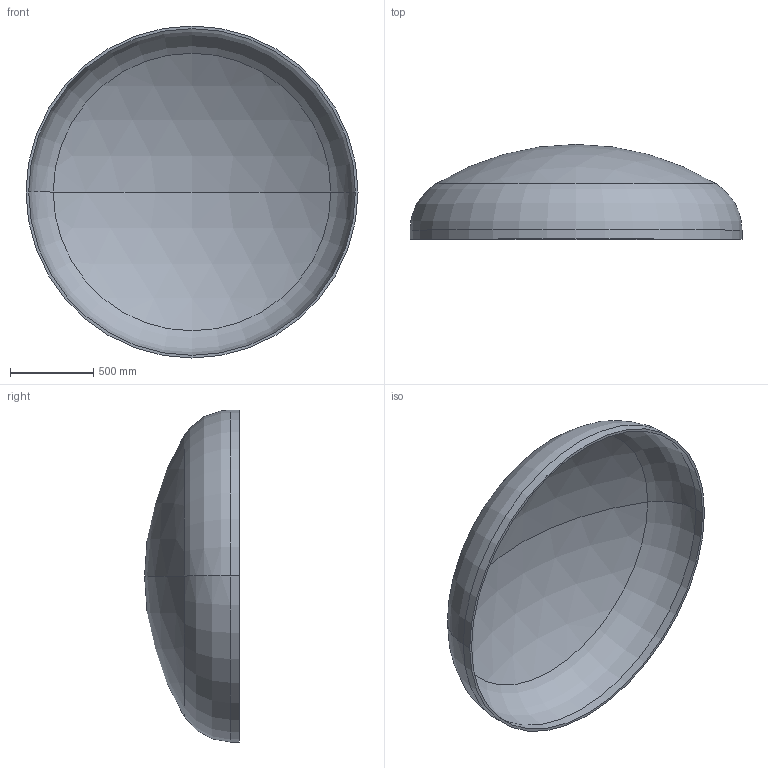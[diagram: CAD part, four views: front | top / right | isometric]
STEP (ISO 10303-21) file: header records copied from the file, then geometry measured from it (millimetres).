
FILE_DESCRIPTION (( 'STEP AP203' ), '1' );
FILE_NAME ('DIN 28013 Korbbogenform_-_Boden DIN 28013 - 2000 x 55 - I - s=16.step', '2016-07-01T13:39:07', ( '' ), ( '' ), 'SwSTEP 2.0', 'SolidWorks 2013', '' );
FILE_SCHEMA (( 'CONFIG_CONTROL_DESIGN' ));
Length unit declared in the file: millimetre
Products named in the file (1): DIN 28013 Korbbogenform_-_Boden DIN 28013 - 2000 x 55 - I - s=16
Bounding box: 2000 x 571.08 x 2000 mm (x, y, z)
Volume: 74457285.3 mm3; surface area: 9407420.1 mm2
Topology: 1 solids, 1 shells, 13 faces, 24 edges, 14 vertices
Faces by surface type: torus 4, cylinder 4, sphere 4, plane 1
Entity records: 407 total; most frequent: DIRECTION 72, CARTESIAN_POINT 52, ORIENTED_EDGE 48, AXIS2_PLACEMENT_3D 34, EDGE_CURVE 24, CIRCLE 20, VERTEX_POINT 14, EDGE_LOOP 14
